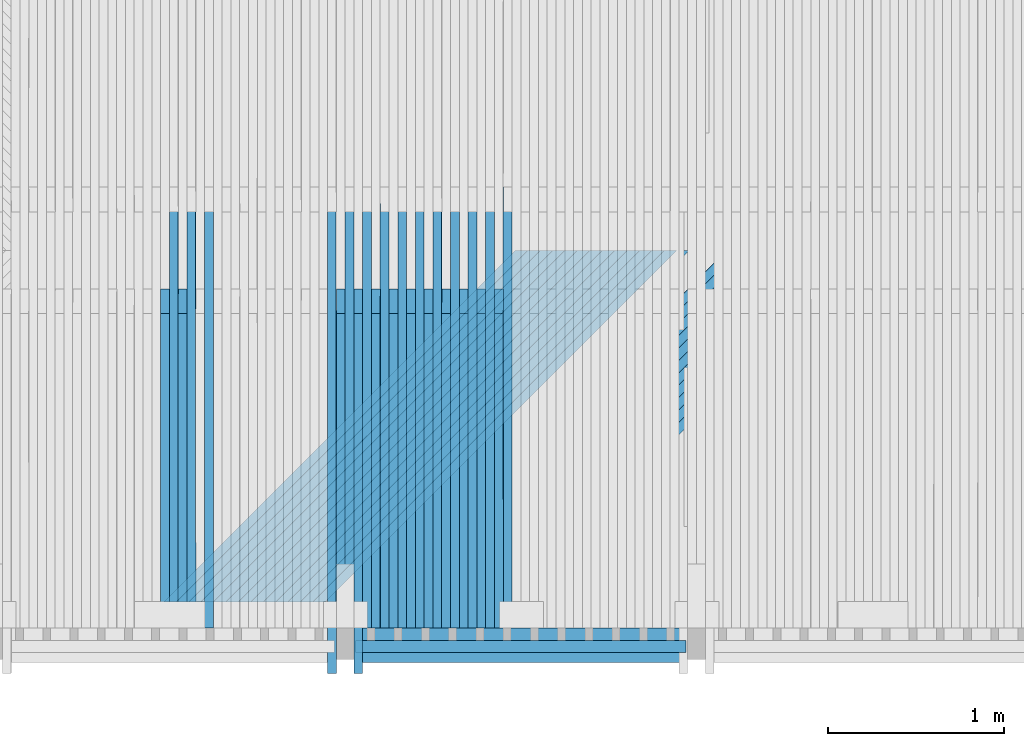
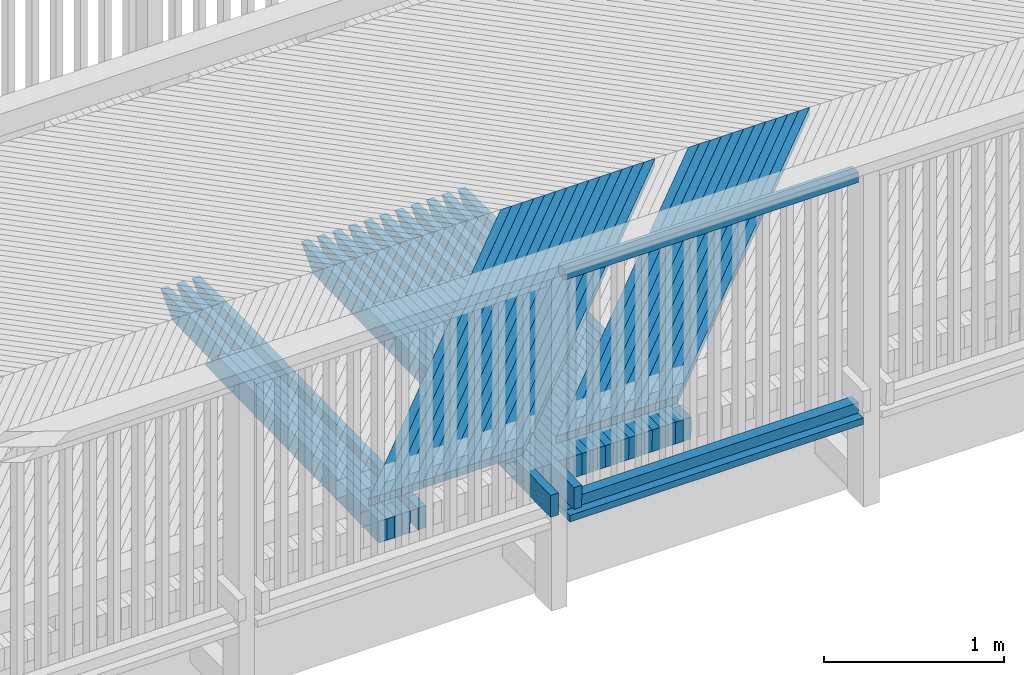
# One storey, part 23 of 52: 54 beams.
"""IFC2X3 building model written with IfcOpenShell, lengths in millimetres."""

from ifc_helpers import new_model, si_unit, frame, origin_with_axes, place, context, subcontext, project, spatial, faceted_brep, material, type_object, element, save


model = new_model("IFC2X3")

# Units and contexts
model_context = context("Model", 3, precision=1e-05, world=origin_with_axes())
body_context = subcontext(model_context, "Body", "Model", "MODEL_VIEW")
ifc_project = project(units=[si_unit("LENGTHUNIT", "METRE", prefix="MILLI"), si_unit("AREAUNIT", "SQUARE_METRE"), si_unit("VOLUMEUNIT", "CUBIC_METRE"), si_unit("MASSUNIT", "GRAM", prefix="KILO"), si_unit("TIMEUNIT", "SECOND"), si_unit("PLANEANGLEUNIT", "RADIAN"), si_unit("SOLIDANGLEUNIT", "STERADIAN"), si_unit("THERMODYNAMICTEMPERATUREUNIT", "DEGREE_CELSIUS"), si_unit("LUMINOUSINTENSITYUNIT", "LUMEN")], contexts=[model_context])

# Site, building, storey
site_placement = place(None, origin_with_axes())
site = spatial("IfcSite", under=ifc_project, at=site_placement, Name="Undefined", CompositionType="ELEMENT")
building_placement = place(site_placement, origin_with_axes())
building = spatial("IfcBuilding", under=site, at=building_placement, Name="Undefined", CompositionType="ELEMENT")
storey_placement = place(building_placement, origin_with_axes())
storey = spatial("IfcBuildingStorey", under=building, at=storey_placement, Name="Undefined", CompositionType="ELEMENT", Elevation=0.0)

# Beams
ifc_material = material(Name="TIMBER/Timber_Undefined")
beam_type_1 = type_object("IfcBeamType", Name="70*70", PredefinedType="NOTDEFINED")
for number, where, z_axis, x_axis, name in (
    (1, (6060.06112513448, 110.01001458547, 2964.99442729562), (0.0, -1.0, 0.0), (0.999998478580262, 0.0, 0.0017443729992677), "BEAM"),
    (2, (6060.06112513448, 110.01001458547, 4524.99442729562), (0.0, -1.0, 0.0), (0.999998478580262, 0.0, 0.0017443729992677), "BEAM"),
):
    element("IfcBeam", number, at=place(storey_placement, frame(where, z_axis=z_axis, x_axis=x_axis)), inside=storey, type_object=beam_type_1, material=ifc_material, Name=name, ObjectType="70*70", context=body_context, shape_type="Brep", body=[
        faceted_brep([(-3.63797880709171e-12, 35.0000000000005, -35.0), (-3.63797880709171e-12, 35.0000000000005, 35.0), (1880.00289069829, 35.0, 35.0), (1880.00289069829, 35.0, -35.0), (-3.63797880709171e-12, -34.9999999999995, 35.0), (1880.00289069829, -35.0000000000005, 35.0), (-3.63797880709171e-12, -34.9999999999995, -35.0), (1880.00289069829, -35.0000000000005, -35.0)], [[[0, 1, 2, 3]], [[1, 4, 5, 2]], [[4, 6, 7, 5]], [[6, 0, 3, 7]], [[5, 7, 3, 2]], [[6, 4, 1, 0]]]),
    ])
beam_type_2 = type_object("IfcBeamType", Name="50*50", PredefinedType="NOTDEFINED")
for number, where, z_axis, x_axis, name in (
    (3, (8913.77277485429, 2364.50010032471, 3235.42868074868), (0.707094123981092, -0.706981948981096, -0.0139435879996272), (-0.707119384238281, -0.706948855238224, -0.0143350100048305), "BEAM"),
    (4, (8843.04861667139, 2364.50010032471, 3235.53185944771), (0.707095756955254, -0.70698194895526, -0.013860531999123), (-0.7071176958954, -0.706948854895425, -0.0144180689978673), "BEAM"),
    (5, (8772.32444685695, 2364.50010032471, 3235.62673083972), (0.707097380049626, -0.706981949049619, -0.0137774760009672), (-0.707115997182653, -0.70694885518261, -0.0145011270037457), "BEAM"),
    (6, (8701.60026638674, 2364.50010032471, 3235.71329492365), (0.707098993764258, -0.706981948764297, -0.0136944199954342), (-0.707114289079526, -0.706948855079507, -0.0145841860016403), "BEAM"),
    (7, (8630.87607623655, 2364.50010032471, 3235.79155169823), (0.707100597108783, -0.706981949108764, -0.013611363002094), (-0.707112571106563, -0.706948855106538, -0.0146672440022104), "BEAM"),
    (8, (8560.15187738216, 2364.50010032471, 3235.86150116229), (0.707102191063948, -0.706981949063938, -0.0135283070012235), (-0.707110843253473, -0.706948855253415, -0.0147503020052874), "BEAM"),
    (9, (8489.42767079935, 2364.50010032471, 3235.9231433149), (0.707103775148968, -0.706981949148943, -0.0134452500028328), (-0.707109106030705, -0.706948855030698, -0.0148333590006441), "BEAM"),
    (10, (8418.7034574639, 2364.50010032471, 3235.97647815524), (0.707105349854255, -0.70698194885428, -0.0133621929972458), (-0.70710735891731, -0.706948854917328, -0.0149164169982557), "BEAM"),
    (11, (8347.9792383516, 2364.50010032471, 3236.02150568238), (0.707106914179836, -0.706981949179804, -0.0132791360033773), (-0.707105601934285, -0.7069488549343, -0.014999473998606), "BEAM"),
    (12, (8277.25501443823, 2364.50010032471, 3236.05822589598), (0.707108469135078, -0.706981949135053, -0.0131960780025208), (-0.707103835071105, -0.706948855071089, -0.0150825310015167), "BEAM"),
    (13, (8206.53078669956, 2364.50010032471, 3236.08663879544), (0.707110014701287, -0.706981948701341, -0.0131130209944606), (-0.707102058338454, -0.706948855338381, -0.015165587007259), "BEAM"),
    (14, (7923.63385700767, 2364.50010032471, 3236.11721724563), (0.707116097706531, -0.706981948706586, -0.0127807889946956), (-0.707094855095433, -0.706948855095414, -0.0154978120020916), "BEAM"),
    (15, (7852.9096247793, 2364.50010032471, 3236.10409357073), (0.707117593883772, -0.706981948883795, -0.0126977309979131), (-0.707093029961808, -0.706948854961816, -0.0155808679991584), "BEAM"),
    (16, (7782.18539458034, 2364.50010032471, 3236.082662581), (0.707119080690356, -0.706981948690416, -0.0126146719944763), (-0.707091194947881, -0.706948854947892, -0.0156639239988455), "BEAM"),
    (17, (7711.46116738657, 2364.50010032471, 3236.0529242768), (0.707120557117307, -0.706981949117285, -0.012531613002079), (-0.707089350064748, -0.706948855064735, -0.0157469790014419), "BEAM"),
    (18, (7640.73694417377, 2364.50010032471, 3236.01487865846), (0.707122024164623, -0.706981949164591, -0.0124485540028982), (-0.707087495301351, -0.706948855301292, -0.0158300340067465), "BEAM"),
    (19, (7570.01272591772, 2364.50010032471, 3235.96852572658), (0.707123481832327, -0.706981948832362, -0.0123654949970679), (-0.70708563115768, -0.706948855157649, -0.0159130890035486), "BEAM"),
    (20, (7499.28851359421, 2364.50010032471, 3235.91386548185), (0.707124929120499, -0.706981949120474, -0.012282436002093), (-0.707083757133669, -0.706948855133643, -0.015996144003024), "BEAM"),
    (21, (7428.56430817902, 2364.50010032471, 3235.85089792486), (0.707126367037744, -0.706981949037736, -0.0121993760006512), (-0.707081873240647, -0.706948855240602, -0.0160791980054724), "BEAM"),
    (22, (7357.84011064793, 2364.50010032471, 3235.77962305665), (0.707127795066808, -0.706981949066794, -0.0121163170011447), (-0.70707997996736, -0.706948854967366, -0.0161622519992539), "BEAM"),
    (23, (7287.11592197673, 2364.50010032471, 3235.70004087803), (0.707129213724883, -0.70698194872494, -0.0120332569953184), (-0.707078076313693, -0.706948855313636, -0.0162453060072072), "BEAM"),
    (24, (7216.39174314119, 2364.50010032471, 3235.61215139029), (0.707130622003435, -0.706981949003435, -0.0119501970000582), (-0.707076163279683, -0.706948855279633, -0.0163283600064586), "BEAM"),
    (25, (7145.6675751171, 2364.50010032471, 3235.51595459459), (0.70713202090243, -0.70698194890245, -0.0118671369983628), (-0.707074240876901, -0.706948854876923, -0.0164114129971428), "BEAM"),
    (26, (7074.94341888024, 2364.50010032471, 3235.4114504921), (0.70713340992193, -0.706981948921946, -0.0117840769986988), (-0.707072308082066, -0.706948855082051, -0.0164944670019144), "BEAM"),
    (27, (7004.2192754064, 2364.50010032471, 3235.29863908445), (0.707134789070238, -0.706981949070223, -0.0117010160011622), (-0.707070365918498, -0.706948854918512, -0.0165775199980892), "BEAM"),
):
    element("IfcBeam", number, at=place(storey_placement, frame(where, z_axis=z_axis, x_axis=x_axis)), inside=storey, type_object=beam_type_2, material=ifc_material, Name=name, ObjectType="50*50", context=body_context, shape_type="Brep", body=[
        faceted_brep([(24.894245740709, 25.0, -25.0), (-25.0086637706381, 24.9999999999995, 24.9999999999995), (2804.3406783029, 25.0000000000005, 25.0000000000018), (2854.34301907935, 25.0, -24.9999999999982), (-26.4222658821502, -25.0, 24.9999999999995), (2802.92643296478, -25.0, 25.0000000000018), (23.4806436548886, -25.0, -25.0), (2852.92877373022, -25.0, -24.9999999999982)], [[[0, 1, 2, 3]], [[1, 4, 5, 2]], [[4, 6, 7, 5]], [[6, 0, 3, 7]], [[5, 7, 3, 2]], [[6, 4, 1, 0]]]),
    ])
beam_type_3 = type_object("IfcBeamType", Name="195*45", PredefinedType="NOTDEFINED")
beam_1_placement = place(storey_placement, frame((6059.30513936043, 117.510014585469, 2907.50226895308), z_axis=(0.0, -1.0, 0.0), x_axis=(0.999998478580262, 0.0, 0.0017443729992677)))
element("IfcBeam", 28, at=beam_1_placement, inside=storey, type_object=beam_type_3, material=ifc_material, Name="BEAM", ObjectType="195*45", context=body_context, shape_type="Brep", body=[
    faceted_brep([(3.63797880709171e-12, 22.4999999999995, -97.5), (3.63797880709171e-12, 22.4999999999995, 97.5), (1880.22135781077, 22.4999999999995, 97.5), (1880.22135781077, 22.4999999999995, -97.5), (1.81898940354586e-12, -22.5000000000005, 97.5), (1880.22135781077, -22.5000000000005, 97.5), (1.81898940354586e-12, -22.5000000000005, -97.5), (1880.22135781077, -22.5000000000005, -97.5)], [[[0, 1, 2, 3]], [[1, 4, 5, 2]], [[4, 6, 7, 5]], [[6, 0, 3, 7]], [[5, 7, 3, 2]], [[6, 4, 1, 0]]]),
])
beam_type_4 = type_object("IfcBeamType", Name="150*50", PredefinedType="NOTDEFINED")
beam_2_placement = place(storey_placement, frame((6875.55134106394, 216.50460761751, 3092.09976390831), z_axis=(-0.00194896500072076, -0.019996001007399, 0.999798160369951), x_axis=(-3.89800000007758e-05, 0.999800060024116, 0.0199959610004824)))
element("IfcBeam", 29, at=beam_2_placement, inside=storey, type_object=beam_type_4, material=ifc_material, Name="BEAM", ObjectType="150*50", context=body_context, shape_type="Brep", body=[
    faceted_brep([(-1.67788130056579e-07, -24.9999999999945, -74.9999999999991), (1.67786311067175e-07, -24.9999999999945, 75.0000000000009), (1.67786311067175e-07, 25.0000000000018, 75.0), (-1.67787220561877e-07, 25.0000000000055, -75.0), (1928.42646353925, -25.0, -75.0), (1789.96936433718, -25.0000000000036, 74.9999999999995), (1789.96936408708, 24.9999999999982, 75.0000000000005), (1928.42646328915, 24.9999999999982, -74.9999999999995)], [[[0, 1, 2, 3]], [[1, 0, 4, 5]], [[2, 1, 5, 6]], [[3, 2, 6, 7]], [[0, 3, 7, 4]], [[7, 6, 5, 4]]]),
])
beam_3_placement = place(storey_placement, frame((6925.57129448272, 216.504607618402, 3092.18896139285), z_axis=(-0.0017828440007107, -0.0199960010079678, 0.999798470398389), x_axis=(-3.56580000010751e-05, 0.999800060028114, 0.0199959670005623)))
element("IfcBeam", 30, at=beam_3_placement, inside=storey, type_object=beam_type_4, material=ifc_material, Name="BEAM", ObjectType="150*50", context=body_context, shape_type="Brep", body=[
    faceted_brep([(-1.67788130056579e-07, -24.9999999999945, -74.9999999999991), (1.67786311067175e-07, -24.9999999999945, 75.0000000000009), (1.67786311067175e-07, 25.0000000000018, 75.0), (-1.67787220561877e-07, 25.0000000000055, -75.0), (2375.00494422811, 25.0000000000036, -74.9999999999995), (2375.0049444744, -24.9999999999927, -74.9999999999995), (2510.5924871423, -24.9999999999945, 60.5875430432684), (2150.42514405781, -24.9999999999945, 75.0000000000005), (2150.42515052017, 25.0000000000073, 75.0), (2510.59248715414, 25.0000000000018, 60.5875433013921)], [[[0, 1, 2, 3]], [[0, 3, 4, 5]], [[1, 0, 5, 6, 7]], [[2, 1, 7, 8]], [[4, 3, 2, 8, 9]], [[5, 4, 9, 6]], [[6, 9, 8, 7]]]),
])
beam_4_placement = place(storey_placement, frame((6775.53149770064, 216.50460761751, 3091.90462133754), z_axis=(-0.0021150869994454, -0.0199960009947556, 0.999797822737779), x_axis=(-4.23030000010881e-05, 0.999800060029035, 0.0199959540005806)))
element("IfcBeam", 31, at=beam_4_placement, inside=storey, type_object=beam_type_4, material=ifc_material, Name="BEAM", ObjectType="150*50", context=body_context, shape_type="Brep", body=[
    faceted_brep([(-1.67788130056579e-07, -24.9999999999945, -74.9999999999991), (1.67786311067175e-07, -24.9999999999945, 75.0000000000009), (1.67786311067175e-07, 25.0000000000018, 75.0), (-1.67787220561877e-07, 25.0000000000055, -75.0), (1928.42646353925, -25.0, -75.0), (1789.96936433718, -25.0000000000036, 74.9999999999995), (1789.96936408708, 24.9999999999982, 75.0000000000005), (1928.42646328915, 24.9999999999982, -74.9999999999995)], [[[0, 1, 2, 3]], [[1, 0, 4, 5]], [[2, 1, 5, 6]], [[3, 2, 6, 7]], [[0, 3, 7, 4]], [[7, 6, 5, 4]]]),
])
beam_5_placement = place(storey_placement, frame((6825.55143560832, 216.504607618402, 3092.0021299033), z_axis=(-0.00194896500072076, -0.019996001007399, 0.999798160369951), x_axis=(-3.89800000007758e-05, 0.999800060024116, 0.0199959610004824)))
element("IfcBeam", 32, at=beam_5_placement, inside=storey, type_object=beam_type_4, material=ifc_material, Name="BEAM", ObjectType="150*50", context=body_context, shape_type="Brep", body=[
    faceted_brep([(-1.67788130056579e-07, -24.9999999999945, -74.9999999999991), (1.67786311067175e-07, -24.9999999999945, 75.0000000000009), (1.67786311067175e-07, 25.0000000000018, 75.0), (-1.67787220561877e-07, 25.0000000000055, -75.0), (2375.00494422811, 25.0000000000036, -74.9999999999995), (2375.0049444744, -24.9999999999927, -74.9999999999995), (2510.5924871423, -24.9999999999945, 60.5875430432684), (2150.42514405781, -24.9999999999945, 75.0000000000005), (2150.42515052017, 25.0000000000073, 75.0), (2510.59248715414, 25.0000000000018, 60.5875433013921)], [[[0, 1, 2, 3]], [[0, 3, 4, 5]], [[1, 0, 5, 6, 7]], [[2, 1, 7, 8]], [[4, 3, 2, 8, 9]], [[5, 4, 9, 6]], [[6, 9, 8, 7]]]),
])
beam_6_placement = place(storey_placement, frame((6675.51168814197, 216.50460761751, 3091.6928599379), z_axis=(-0.00228120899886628, -0.0199960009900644, 0.999797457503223), x_axis=(-4.5625000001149e-05, 0.99980006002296, 0.0199959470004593)))
element("IfcBeam", 33, at=beam_6_placement, inside=storey, type_object=beam_type_4, material=ifc_material, Name="BEAM", ObjectType="150*50", context=body_context, shape_type="Brep", body=[
    faceted_brep([(-1.67788130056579e-07, -24.9999999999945, -74.9999999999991), (1.67786311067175e-07, -24.9999999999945, 75.0000000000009), (1.67786311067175e-07, 25.0000000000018, 75.0), (-1.67787220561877e-07, 25.0000000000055, -75.0), (1928.42646353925, -25.0, -75.0), (1789.96936433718, -25.0000000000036, 74.9999999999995), (1789.96936408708, 24.9999999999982, 75.0000000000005), (1928.42646328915, 24.9999999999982, -74.9999999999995)], [[[0, 1, 2, 3]], [[1, 0, 4, 5]], [[2, 1, 5, 6]], [[3, 2, 6, 7]], [[0, 3, 7, 4]], [[7, 6, 5, 4]]]),
])
beam_7_placement = place(storey_placement, frame((6725.53160915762, 216.504607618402, 3091.79867958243), z_axis=(-0.0021150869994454, -0.0199960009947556, 0.999797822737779), x_axis=(-4.23030000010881e-05, 0.999800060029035, 0.0199959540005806)))
element("IfcBeam", 34, at=beam_7_placement, inside=storey, type_object=beam_type_4, material=ifc_material, Name="BEAM", ObjectType="150*50", context=body_context, shape_type="Brep", body=[
    faceted_brep([(-1.67788130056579e-07, -24.9999999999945, -74.9999999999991), (1.67786311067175e-07, -24.9999999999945, 75.0000000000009), (1.67786311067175e-07, 25.0000000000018, 75.0), (-1.67787220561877e-07, 25.0000000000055, -75.0), (2375.00494422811, 25.0000000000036, -74.9999999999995), (2375.0049444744, -24.9999999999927, -74.9999999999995), (2510.5924871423, -24.9999999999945, 60.5875430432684), (2150.42514405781, -24.9999999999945, 75.0000000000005), (2150.42515052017, 25.0000000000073, 75.0), (2510.59248715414, 25.0000000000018, 60.5875433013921)], [[[0, 1, 2, 3]], [[0, 3, 4, 5]], [[1, 0, 5, 6, 7]], [[2, 1, 7, 8]], [[4, 3, 2, 8, 9]], [[5, 4, 9, 6]], [[6, 9, 8, 7]]]),
])
beam_8_placement = place(storey_placement, frame((6575.49191514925, 216.50460761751, 3091.46447971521), z_axis=(-0.00244733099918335, -0.019996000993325, 0.999797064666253), x_axis=(-4.894700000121e-05, 0.999800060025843, 0.0199959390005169)))
element("IfcBeam", 35, at=beam_8_placement, inside=storey, type_object=beam_type_4, material=ifc_material, Name="BEAM", ObjectType="150*50", context=body_context, shape_type="Brep", body=[
    faceted_brep([(-1.67788130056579e-07, -24.9999999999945, -74.9999999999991), (1.67786311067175e-07, -24.9999999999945, 75.0000000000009), (1.67786311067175e-07, 25.0000000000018, 75.0), (-1.67787220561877e-07, 25.0000000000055, -75.0), (1928.42646353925, -25.0, -75.0), (1789.96936433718, -25.0000000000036, 74.9999999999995), (1789.96936408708, 24.9999999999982, 75.0000000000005), (1928.42646328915, 24.9999999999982, -74.9999999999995)], [[[0, 1, 2, 3]], [[1, 0, 4, 5]], [[2, 1, 5, 6]], [[3, 2, 6, 7]], [[0, 3, 7, 4]], [[7, 6, 5, 4]]]),
])
beam_9_placement = place(storey_placement, frame((6625.51181789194, 216.504607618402, 3091.57861043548), z_axis=(-0.00228120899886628, -0.0199960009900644, 0.999797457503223), x_axis=(-4.5625000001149e-05, 0.99980006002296, 0.0199959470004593)))
element("IfcBeam", 36, at=beam_9_placement, inside=storey, type_object=beam_type_4, material=ifc_material, Name="BEAM", ObjectType="150*50", context=body_context, shape_type="Brep", body=[
    faceted_brep([(-1.67788130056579e-07, -24.9999999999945, -74.9999999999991), (1.67786311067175e-07, -24.9999999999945, 75.0000000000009), (1.67786311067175e-07, 25.0000000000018, 75.0), (-1.67787220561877e-07, 25.0000000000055, -75.0), (2375.00494422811, 25.0000000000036, -74.9999999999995), (2375.0049444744, -24.9999999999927, -74.9999999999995), (2510.5924871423, -24.9999999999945, 60.5875430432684), (2150.42514405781, -24.9999999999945, 75.0000000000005), (2150.42515052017, 25.0000000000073, 75.0), (2510.59248715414, 25.0000000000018, 60.5875433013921)], [[[0, 1, 2, 3]], [[0, 3, 4, 5]], [[1, 0, 5, 6, 7]], [[2, 1, 7, 8]], [[4, 3, 2, 8, 9]], [[5, 4, 9, 6]], [[6, 9, 8, 7]]]),
])
beam_10_placement = place(storey_placement, frame((6475.47218148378, 216.50460761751, 3091.21948067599), z_axis=(-0.00261345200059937, -0.019996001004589, 0.999796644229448), x_axis=(-5.22700000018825e-05, 0.999800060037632, 0.0199959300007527)))
element("IfcBeam", 37, at=beam_10_placement, inside=storey, type_object=beam_type_4, material=ifc_material, Name="BEAM", ObjectType="150*50", context=body_context, shape_type="Brep", body=[
    faceted_brep([(-1.67788130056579e-07, -24.9999999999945, -74.9999999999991), (1.67786311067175e-07, -24.9999999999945, 75.0000000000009), (1.67786311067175e-07, 25.0000000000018, 75.0), (-1.67787220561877e-07, 25.0000000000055, -75.0), (1928.42646353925, -25.0, -75.0), (1789.96936433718, -25.0000000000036, 74.9999999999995), (1789.96936408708, 24.9999999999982, 75.0000000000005), (1928.42646328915, 24.9999999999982, -74.9999999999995)], [[[0, 1, 2, 3]], [[1, 0, 4, 5]], [[2, 1, 5, 6]], [[3, 2, 6, 7]], [[0, 3, 7, 4]], [[7, 6, 5, 4]]]),
])
beam_11_placement = place(storey_placement, frame((6525.49206457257, 216.504607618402, 3091.34192246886), z_axis=(-0.00244733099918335, -0.019996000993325, 0.999797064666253), x_axis=(-4.894700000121e-05, 0.999800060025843, 0.0199959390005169)))
element("IfcBeam", 38, at=beam_11_placement, inside=storey, type_object=beam_type_4, material=ifc_material, Name="BEAM", ObjectType="150*50", context=body_context, shape_type="Brep", body=[
    faceted_brep([(-1.67788130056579e-07, -24.9999999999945, -74.9999999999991), (1.67786311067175e-07, -24.9999999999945, 75.0000000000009), (1.67786311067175e-07, 25.0000000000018, 75.0), (-1.67787220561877e-07, 25.0000000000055, -75.0), (2375.00494422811, 25.0000000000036, -74.9999999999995), (2375.0049444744, -24.9999999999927, -74.9999999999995), (2510.5924871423, -24.9999999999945, 60.5875430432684), (2150.42514405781, -24.9999999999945, 75.0000000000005), (2150.42515052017, 25.0000000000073, 75.0), (2510.59248715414, 25.0000000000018, 60.5875433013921)], [[[0, 1, 2, 3]], [[0, 3, 4, 5]], [[1, 0, 5, 6, 7]], [[2, 1, 7, 8]], [[4, 3, 2, 8, 9]], [[5, 4, 9, 6]], [[6, 9, 8, 7]]]),
])
beam_12_placement = place(storey_placement, frame((6375.45248990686, 216.50460761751, 3090.957862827), z_axis=(-0.00277957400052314, -0.0199960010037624, 0.99979619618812), x_axis=(-5.55920000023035e-05, 0.999800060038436, 0.0199959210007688)))
element("IfcBeam", 39, at=beam_12_placement, inside=storey, type_object=beam_type_4, material=ifc_material, Name="BEAM", ObjectType="150*50", context=body_context, shape_type="Brep", body=[
    faceted_brep([(-1.67788130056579e-07, -24.9999999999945, -74.9999999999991), (1.67786311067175e-07, -24.9999999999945, 75.0000000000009), (1.67786311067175e-07, 25.0000000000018, 75.0), (-1.67787220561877e-07, 25.0000000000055, -75.0), (1928.42646353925, -25.0, -75.0), (1789.96936433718, -25.0000000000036, 74.9999999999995), (1789.96936408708, 24.9999999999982, 75.0000000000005), (1928.42646328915, 24.9999999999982, -74.9999999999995)], [[[0, 1, 2, 3]], [[1, 0, 4, 5]], [[2, 1, 5, 6]], [[3, 2, 6, 7]], [[0, 3, 7, 4]], [[7, 6, 5, 4]]]),
])
beam_13_placement = place(storey_placement, frame((6425.47235196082, 216.504607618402, 3091.08861568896), z_axis=(-0.00261345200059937, -0.019996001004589, 0.999796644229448), x_axis=(-5.22700000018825e-05, 0.999800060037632, 0.0199959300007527)))
element("IfcBeam", 40, at=beam_13_placement, inside=storey, type_object=beam_type_4, material=ifc_material, Name="BEAM", ObjectType="150*50", context=body_context, shape_type="Brep", body=[
    faceted_brep([(-1.67788130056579e-07, -24.9999999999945, -74.9999999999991), (1.67786311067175e-07, -24.9999999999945, 75.0000000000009), (1.67786311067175e-07, 25.0000000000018, 75.0), (-1.67787220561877e-07, 25.0000000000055, -75.0), (2375.00494422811, 25.0000000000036, -74.9999999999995), (2375.0049444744, -24.9999999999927, -74.9999999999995), (2510.5924871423, -24.9999999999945, 60.5875430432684), (2150.42514405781, -24.9999999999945, 75.0000000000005), (2150.42515052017, 25.0000000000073, 75.0), (2510.59248715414, 25.0000000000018, 60.5875433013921)], [[[0, 1, 2, 3]], [[0, 3, 4, 5]], [[1, 0, 5, 6, 7]], [[2, 1, 7, 8]], [[4, 3, 2, 8, 9]], [[5, 4, 9, 6]], [[6, 9, 8, 7]]]),
])
beam_14_placement = place(storey_placement, frame((6275.43284317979, 216.50460761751, 3090.6796261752), z_axis=(-0.00294569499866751, -0.0199960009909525, 0.999795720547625), x_axis=(-5.89150000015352e-05, 0.999800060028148, 0.019995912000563)))
element("IfcBeam", 41, at=beam_14_placement, inside=storey, type_object=beam_type_4, material=ifc_material, Name="BEAM", ObjectType="150*50", context=body_context, shape_type="Brep", body=[
    faceted_brep([(-1.67788130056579e-07, -24.9999999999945, -74.9999999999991), (1.67786311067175e-07, -24.9999999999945, 75.0000000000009), (1.67786311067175e-07, 25.0000000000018, 75.0), (-1.67787220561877e-07, 25.0000000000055, -75.0), (1928.42646353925, -25.0, -75.0), (1789.96936433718, -25.0000000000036, 74.9999999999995), (1789.96936408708, 24.9999999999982, 75.0000000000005), (1928.42646328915, 24.9999999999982, -74.9999999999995)], [[[0, 1, 2, 3]], [[1, 0, 4, 5]], [[2, 1, 5, 6]], [[3, 2, 6, 7]], [[0, 3, 7, 4]], [[7, 6, 5, 4]]]),
])
beam_15_placement = place(storey_placement, frame((6325.45268281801, 216.504607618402, 3090.81869010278), z_axis=(-0.00277957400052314, -0.0199960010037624, 0.99979619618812), x_axis=(-5.55920000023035e-05, 0.999800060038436, 0.0199959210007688)))
element("IfcBeam", 42, at=beam_15_placement, inside=storey, type_object=beam_type_4, material=ifc_material, Name="BEAM", ObjectType="150*50", context=body_context, shape_type="Brep", body=[
    faceted_brep([(-1.67788130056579e-07, -24.9999999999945, -74.9999999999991), (1.67786311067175e-07, -24.9999999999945, 75.0000000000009), (1.67786311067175e-07, 25.0000000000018, 75.0), (-1.67787220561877e-07, 25.0000000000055, -75.0), (2375.00494422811, 25.0000000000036, -74.9999999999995), (2375.0049444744, -24.9999999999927, -74.9999999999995), (2510.5924871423, -24.9999999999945, 60.5875430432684), (2150.42514405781, -24.9999999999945, 75.0000000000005), (2150.42515052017, 25.0000000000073, 75.0), (2510.59248715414, 25.0000000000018, 60.5875433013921)], [[[0, 1, 2, 3]], [[0, 3, 4, 5]], [[1, 0, 5, 6, 7]], [[2, 1, 7, 8]], [[4, 3, 2, 8, 9]], [[5, 4, 9, 6]], [[6, 9, 8, 7]]]),
])
beam_16_placement = place(storey_placement, frame((6175.41324406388, 216.50460761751, 3090.38477072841), z_axis=(-0.00311181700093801, -0.0199960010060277, 0.999795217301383), x_axis=(-6.22370000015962e-05, 0.999800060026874, 0.0199959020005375)))
element("IfcBeam", 43, at=beam_16_placement, inside=storey, type_object=beam_type_4, material=ifc_material, Name="BEAM", ObjectType="150*50", context=body_context, shape_type="Brep", body=[
    faceted_brep([(-1.67788130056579e-07, -24.9999999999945, -74.9999999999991), (1.67786311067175e-07, -24.9999999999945, 75.0000000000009), (1.67786311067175e-07, 25.0000000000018, 75.0), (-1.67787220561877e-07, 25.0000000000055, -75.0), (1928.42646353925, -25.0, -75.0), (1789.96936433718, -25.0000000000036, 74.9999999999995), (1789.96936408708, 24.9999999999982, 75.0000000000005), (1928.42646328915, 24.9999999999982, -74.9999999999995)], [[[0, 1, 2, 3]], [[1, 0, 4, 5]], [[2, 1, 5, 6]], [[3, 2, 6, 7]], [[0, 3, 7, 4]], [[7, 6, 5, 4]]]),
])
for number, where, z_axis, x_axis, name in (
    (44, (6225.43305990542, 216.504607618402, 3090.53214571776), (-0.00294569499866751, -0.0199960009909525, 0.999795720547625), (-5.89150000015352e-05, 0.999800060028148, 0.019995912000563), "BEAM"),
    (45, (6125.41348598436, 216.504607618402, 3090.22898254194), (-0.00311181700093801, -0.0199960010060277, 0.999795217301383), (-6.22370000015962e-05, 0.999800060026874, 0.0199959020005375), "BEAM"),
):
    element("IfcBeam", number, at=place(storey_placement, frame(where, z_axis=z_axis, x_axis=x_axis)), inside=storey, type_object=beam_type_4, material=ifc_material, Name=name, ObjectType="150*50", context=body_context, shape_type="Brep", body=[
        faceted_brep([(-1.67788130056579e-07, -24.9999999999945, -74.9999999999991), (1.67786311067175e-07, -24.9999999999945, 75.0000000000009), (1.67786311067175e-07, 25.0000000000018, 75.0), (-1.67787220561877e-07, 25.0000000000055, -75.0), (2375.00494422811, 25.0000000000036, -74.9999999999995), (2375.0049444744, -24.9999999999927, -74.9999999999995), (2510.5924871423, -24.9999999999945, 60.5875430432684), (2150.42514405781, -24.9999999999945, 75.0000000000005), (2150.42515052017, 25.0000000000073, 75.0), (2510.59248715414, 25.0000000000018, 60.5875433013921)], [[[0, 1, 2, 3]], [[0, 3, 4, 5]], [[1, 0, 5, 6, 7]], [[2, 1, 7, 8]], [[4, 3, 2, 8, 9]], [[5, 4, 9, 6]], [[6, 9, 8, 7]]]),
    ])
beam_17_placement = place(storey_placement, frame((5975.37419971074, 216.50460761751, 3089.74520348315), z_axis=(-0.00344405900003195, -0.0199960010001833, 0.999794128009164), x_axis=(-6.88820000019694e-05, 0.99980006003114, 0.0199958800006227)))
element("IfcBeam", 46, at=beam_17_placement, inside=storey, type_object=beam_type_4, material=ifc_material, Name="BEAM", ObjectType="150*50", context=body_context, shape_type="Brep", body=[
    faceted_brep([(-1.67788130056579e-07, -24.9999999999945, -74.9999999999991), (1.67786311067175e-07, -24.9999999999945, 75.0000000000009), (1.67786311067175e-07, 25.0000000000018, 75.0), (-1.67787220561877e-07, 25.0000000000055, -75.0), (1928.42646353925, -25.0, -75.0), (1789.96936433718, -25.0000000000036, 74.9999999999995), (1789.96936408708, 24.9999999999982, 75.0000000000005), (1928.42646328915, 24.9999999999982, -74.9999999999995)], [[[0, 1, 2, 3]], [[1, 0, 4, 5]], [[2, 1, 5, 6]], [[3, 2, 6, 7]], [[0, 3, 7, 4]], [[7, 6, 5, 4]]]),
])
for number, where, z_axis, x_axis, name in (
    (47, (6025.39396381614, 216.504607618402, 3089.90920058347), (-0.00327793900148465, -0.019996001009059, 0.999794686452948), (-6.55590000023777e-05, 0.999800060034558, 0.0199958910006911), "BEAM"),
    (48, (5225.83998039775, 216.504607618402, 3086.75346744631), (-0.00460690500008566, -0.0199960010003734, 0.999789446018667), (-9.21390000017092e-05, 0.999800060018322, 0.0199957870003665), "BEAM"),
):
    element("IfcBeam", number, at=place(storey_placement, frame(where, z_axis=z_axis, x_axis=x_axis)), inside=storey, type_object=beam_type_4, material=ifc_material, Name=name, ObjectType="150*50", context=body_context, shape_type="Brep", body=[
        faceted_brep([(-1.67788130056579e-07, -24.9999999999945, -74.9999999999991), (1.67786311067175e-07, -24.9999999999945, 75.0000000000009), (1.67786311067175e-07, 25.0000000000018, 75.0), (-1.67787220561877e-07, 25.0000000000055, -75.0), (2375.00494422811, 25.0000000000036, -74.9999999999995), (2375.0049444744, -24.9999999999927, -74.9999999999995), (2510.5924871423, -24.9999999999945, 60.5875430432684), (2150.42514405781, -24.9999999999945, 75.0000000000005), (2150.42515052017, 25.0000000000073, 75.0), (2510.59248715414, 25.0000000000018, 60.5875433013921)], [[[0, 1, 2, 3]], [[0, 3, 4, 5]], [[1, 0, 5, 6, 7]], [[2, 1, 7, 8]], [[4, 3, 2, 8, 9]], [[5, 4, 9, 6]], [[6, 9, 8, 7]]]),
    ])
beam_18_placement = place(storey_placement, frame((5075.8015851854, 216.50460761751, 3086.04542024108), z_axis=(-0.004939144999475, -0.0199960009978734, 0.999787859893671), x_axis=(-9.87840000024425e-05, 0.999800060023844, 0.0199957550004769)))
element("IfcBeam", 49, at=beam_18_placement, inside=storey, type_object=beam_type_4, material=ifc_material, Name="BEAM", ObjectType="150*50", context=body_context, shape_type="Brep", body=[
    faceted_brep([(-1.67788130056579e-07, -24.9999999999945, -74.9999999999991), (1.67786311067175e-07, -24.9999999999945, 75.0000000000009), (1.67786311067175e-07, 25.0000000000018, 75.0), (-1.67787220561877e-07, 25.0000000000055, -75.0), (1928.42646353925, -25.0, -75.0), (1789.96936433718, -25.0000000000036, 74.9999999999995), (1789.96936408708, 24.9999999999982, 75.0000000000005), (1928.42646328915, 24.9999999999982, -74.9999999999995)], [[[0, 1, 2, 3]], [[1, 0, 4, 5]], [[2, 1, 5, 6]], [[3, 2, 6, 7]], [[0, 3, 7, 4]], [[7, 6, 5, 4]]]),
])
beam_19_placement = place(storey_placement, frame((5125.82104812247, 216.504607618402, 3086.28421659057), z_axis=(-0.00477302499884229, -0.0199960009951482, 0.999788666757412), x_axis=(-9.54610000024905e-05, 0.999800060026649, 0.019995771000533)))
element("IfcBeam", 50, at=beam_19_placement, inside=storey, type_object=beam_type_4, material=ifc_material, Name="BEAM", ObjectType="150*50", context=body_context, shape_type="Brep", body=[
    faceted_brep([(-1.67788130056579e-07, -24.9999999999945, -74.9999999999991), (1.67786311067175e-07, -24.9999999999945, 75.0000000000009), (1.67786311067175e-07, 25.0000000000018, 75.0), (-1.67787220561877e-07, 25.0000000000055, -75.0), (2375.00494422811, 25.0000000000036, -74.9999999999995), (2375.0049444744, -24.9999999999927, -74.9999999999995), (2510.5924871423, -24.9999999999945, 60.5875430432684), (2150.42514405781, -24.9999999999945, 75.0000000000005), (2150.42515052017, 25.0000000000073, 75.0), (2510.59248715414, 25.0000000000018, 60.5875433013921)], [[[0, 1, 2, 3]], [[0, 3, 4, 5]], [[1, 0, 5, 6, 7]], [[2, 1, 7, 8]], [[4, 3, 2, 8, 9]], [[5, 4, 9, 6]], [[6, 9, 8, 7]]]),
])
beam_20_placement = place(storey_placement, frame((4975.78277262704, 216.50460761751, 3085.55123971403), z_axis=(-0.00510526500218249, -0.0199960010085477, 0.999787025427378), x_axis=(-0.000102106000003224, 0.999800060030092, 0.0199957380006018)))
element("IfcBeam", 51, at=beam_20_placement, inside=storey, type_object=beam_type_4, material=ifc_material, Name="BEAM", ObjectType="150*50", context=body_context, shape_type="Brep", body=[
    faceted_brep([(-1.67788130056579e-07, -24.9999999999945, -74.9999999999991), (1.67786311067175e-07, -24.9999999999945, 75.0000000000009), (1.67786311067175e-07, 25.0000000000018, 75.0), (-1.67787220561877e-07, 25.0000000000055, -75.0), (1928.42646353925, -25.0, -75.0), (1789.96936433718, -25.0000000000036, 74.9999999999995), (1789.96936408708, 24.9999999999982, 75.0000000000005), (1928.42646328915, 24.9999999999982, -74.9999999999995)], [[[0, 1, 2, 3]], [[1, 0, 4, 5]], [[2, 1, 5, 6]], [[3, 2, 6, 7]], [[0, 3, 7, 4]], [[7, 6, 5, 4]]]),
])
beam_21_placement = place(storey_placement, frame((5025.80219519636, 216.504607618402, 3085.79834706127), z_axis=(-0.004939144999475, -0.0199960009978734, 0.999787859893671), x_axis=(-9.87840000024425e-05, 0.999800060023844, 0.0199957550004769)))
element("IfcBeam", 52, at=beam_21_placement, inside=storey, type_object=beam_type_4, material=ifc_material, Name="BEAM", ObjectType="150*50", context=body_context, shape_type="Brep", body=[
    faceted_brep([(-1.67788130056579e-07, -24.9999999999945, -74.9999999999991), (1.67786311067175e-07, -24.9999999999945, 75.0000000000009), (1.67786311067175e-07, 25.0000000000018, 75.0), (-1.67787220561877e-07, 25.0000000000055, -75.0), (2375.00494422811, 25.0000000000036, -74.9999999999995), (2375.0049444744, -24.9999999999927, -74.9999999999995), (2510.5924871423, -24.9999999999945, 60.5875430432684), (2150.42514405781, -24.9999999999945, 75.0000000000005), (2150.42515052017, 25.0000000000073, 75.0), (2510.59248715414, 25.0000000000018, 60.5875433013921)], [[[0, 1, 2, 3]], [[0, 3, 4, 5]], [[1, 0, 5, 6, 7]], [[2, 1, 7, 8]], [[4, 3, 2, 8, 9]], [[5, 4, 9, 6]], [[6, 9, 8, 7]]]),
])
beam_22_placement = place(storey_placement, frame((6075.29628164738, -41.4438078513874, 3084.91318587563), z_axis=(-0.00327793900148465, -0.019996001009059, 0.999794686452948), x_axis=(-6.55590000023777e-05, 0.999800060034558, 0.0199958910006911)))
element("IfcBeam", 53, at=beam_22_placement, inside=storey, type_object=beam_type_4, material=ifc_material, Name="BEAM", ObjectType="150*50", context=body_context, shape_type="Brep", body=[
    faceted_brep([(-1.67788130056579e-07, -24.9999999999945, -74.9999999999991), (1.67786311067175e-07, -24.9999999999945, 75.0000000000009), (1.67786311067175e-07, 25.0000000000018, 75.0), (-1.67787220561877e-07, 25.0000000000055, -75.0), (2186.42645144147, -25.0, -75.0), (2047.96935255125, -25.0, 75.0), (2047.9693678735, 25.0, 75.0), (2186.42646676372, 24.9999999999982, -75.0)], [[[0, 1, 2, 3]], [[1, 0, 4, 5]], [[2, 1, 5, 6]], [[3, 2, 6, 7]], [[0, 3, 7, 4]], [[7, 6, 5, 4]]]),
])
beam_23_placement = place(storey_placement, frame((5925.27708321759, -41.4438078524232, 3084.41294299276), z_axis=(-0.00344405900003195, -0.0199960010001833, 0.999794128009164), x_axis=(-6.88820000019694e-05, 0.99980006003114, 0.0199958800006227)))
element("IfcBeam", 54, at=beam_23_placement, inside=storey, type_object=beam_type_4, material=ifc_material, Name="BEAM", ObjectType="150*50", context=body_context, shape_type="Brep", body=[
    faceted_brep([(-1.67788130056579e-07, -24.9999999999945, -74.9999999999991), (1.67786311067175e-07, -24.9999999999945, 75.0000000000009), (1.67786311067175e-07, 25.0000000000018, 75.0), (-1.67787220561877e-07, 25.0000000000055, -75.0), (2633.00494750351, 25.0, -74.9999999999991), (2633.00494763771, -25.0, -74.9999999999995), (2768.59248713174, -25.0, 60.5875397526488), (2408.42506549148, -25.0, 75.0000000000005), (2408.42506824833, 25.0, 75.0000000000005), (2768.59248710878, 24.9999999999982, 60.5875398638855)], [[[0, 1, 2, 3]], [[0, 3, 4, 5]], [[1, 0, 5, 6, 7]], [[2, 1, 7, 8]], [[4, 3, 2, 8, 9]], [[5, 4, 9, 6]], [[6, 9, 8, 7]]]),
])

save(model, "model.ifc")
